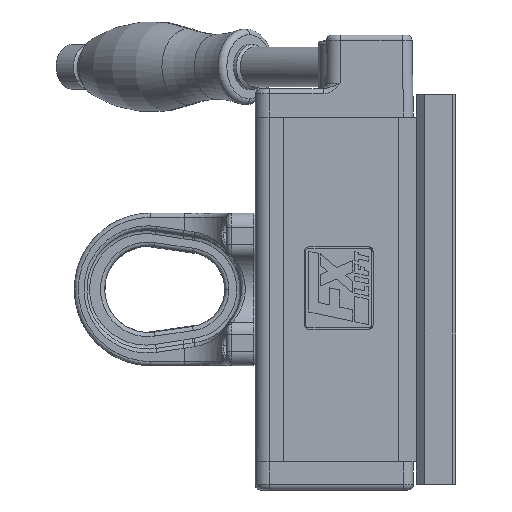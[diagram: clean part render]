
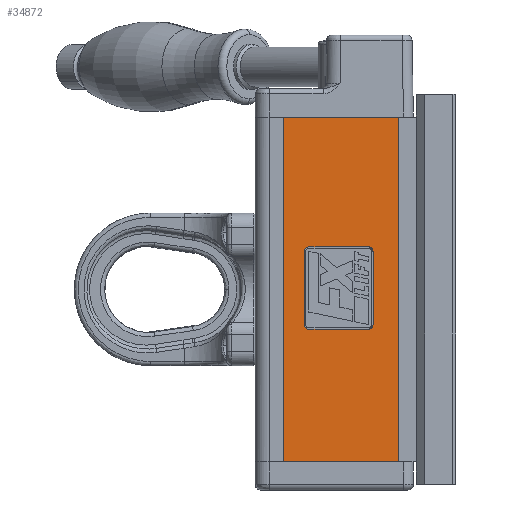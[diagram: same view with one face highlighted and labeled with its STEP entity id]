
A CAD part, front view. The second image highlights one B-rep face of the part: STEP entity #34872.
In plain terms, the highlighted planar face has unit normal (0, -1, 0).
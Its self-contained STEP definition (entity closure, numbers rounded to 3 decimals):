
#623 = CARTESIAN_POINT ( 'NONE',  ( 7.094, -30.5, -14.097 ) ) ;
#811 = CARTESIAN_POINT ( 'NONE',  ( -13.956, -30.5, -14.097 ) ) ;
#1294 = CARTESIAN_POINT ( 'NONE',  ( 7.094, -30.5, 15.049 ) ) ;
#1413 = CARTESIAN_POINT ( 'NONE',  ( 0., -30.5, 61. ) ) ;
#1446 = LINE ( 'NONE', #21803, #20398 ) ;
#1626 = LINE ( 'NONE', #22118, #28973 ) ;
#1720 = VECTOR ( 'NONE', #26220, 1000. ) ;
#1820 = VECTOR ( 'NONE', #45745, 1000. ) ;
#3066 = EDGE_CURVE ( 'NONE', #32357, #24352, #33013, .T. ) ;
#3856 = AXIS2_PLACEMENT_3D ( 'NONE', #1413, #33515, #12178 ) ;
#4067 = CARTESIAN_POINT ( 'NONE',  ( 8.713, -30.5, -13.369 ) ) ;
#4346 = CARTESIAN_POINT ( 'NONE',  ( -15.575, -30.5, -12.478 ) ) ;
#4521 = EDGE_CURVE ( 'NONE', #40160, #18992, #1446, .T. ) ;
#4547 = VERTEX_POINT ( 'NONE', #4346 ) ;
#4882 = CARTESIAN_POINT ( 'NONE',  ( 7.985, -30.5, 15.049 ) ) ;
#5013 = CARTESIAN_POINT ( 'NONE',  ( 18.5, -30.5, 61. ) ) ;
#6600 = LINE ( 'NONE', #10563, #43378 ) ;
#7092 = VERTEX_POINT ( 'NONE', #20134 ) ;
#7421 = CARTESIAN_POINT ( 'NONE',  ( -14.847, -30.5, 15.049 ) ) ;
#7683 = CARTESIAN_POINT ( 'NONE',  ( 8.713, -30.5, -12.478 ) ) ;
#7720 = CARTESIAN_POINT ( 'NONE',  ( -15.575, -30.5, 13.43 ) ) ;
#7760 = CARTESIAN_POINT ( 'NONE',  ( -15.575, -30.5, -13.369 ) ) ;
#7985 = FACE_BOUND ( 'NONE', #30685, .T. ) ;
#9114 = CARTESIAN_POINT ( 'NONE',  ( 8.713, -30.5, 13.43 ) ) ;
#9418 = CARTESIAN_POINT ( 'NONE',  ( 8.713, -30.5, 13.43 ) ) ;
#10448 = VERTEX_POINT ( 'NONE', #9418 ) ;
#10563 = CARTESIAN_POINT ( 'NONE',  ( -15.575, -30.5, 0. ) ) ;
#11505 = ORIENTED_EDGE ( 'NONE', *, *, #32590, .T. ) ;
#12178 = DIRECTION ( 'NONE',  ( 0., 0., -1. ) ) ;
#12942 = FACE_OUTER_BOUND ( 'NONE', #21248, .T. ) ;
#14066 = ORIENTED_EDGE ( 'NONE', *, *, #28301, .T. ) ;
#14278 = CARTESIAN_POINT ( 'NONE',  ( 8.713, -30.5, -12.478 ) ) ;
#14628 = ORIENTED_EDGE ( 'NONE', *, *, #18828, .T. ) ;
#14654 = ORIENTED_EDGE ( 'NONE', *, *, #37731, .T. ) ;
#14832 = VERTEX_POINT ( 'NONE', #16924 ) ;
#14943 = DIRECTION ( 'NONE',  ( -1., 0., 0. ) ) ;
#16924 = CARTESIAN_POINT ( 'NONE',  ( -23., -30.5, -61. ) ) ;
#17903 = CARTESIAN_POINT ( 'NONE',  ( -13.956, -30.5, 15.049 ) ) ;
#18156 = CARTESIAN_POINT ( 'NONE',  ( -14.847, -30.5, -14.097 ) ) ;
#18185 = LINE ( 'NONE', #34086, #34919 ) ;
#18238 = ORIENTED_EDGE ( 'NONE', *, *, #40748, .F. ) ;
#18269 = CARTESIAN_POINT ( 'NONE',  ( -15.575, -30.5, 14.32 ) ) ;
#18790 = CARTESIAN_POINT ( 'NONE',  ( 0., -30.5, 15.049 ) ) ;
#18828 = EDGE_CURVE ( 'NONE', #7092, #44595, #1626, .T. ) ;
#18992 = VERTEX_POINT ( 'NONE', #33462 ) ;
#20134 = CARTESIAN_POINT ( 'NONE',  ( 7.094, -30.5, -14.097 ) ) ;
#20398 = VECTOR ( 'NONE', #25388, 1000. ) ;
#21143 = CARTESIAN_POINT ( 'NONE',  ( 8.713, -30.5, 0. ) ) ;
#21248 = EDGE_LOOP ( 'NONE', ( #29126, #18238, #36755, #31519 ) ) ;
#21800 = LINE ( 'NONE', #5013, #1720 ) ;
#21803 = CARTESIAN_POINT ( 'NONE',  ( 0., -30.5, 61. ) ) ;
#21907 = CARTESIAN_POINT ( 'NONE',  ( -13.956, -30.5, -14.097 ) ) ;
#21984 = CARTESIAN_POINT ( 'NONE',  ( 7.985, -30.5, -14.097 ) ) ;
#22037 = EDGE_CURVE ( 'NONE', #24352, #31612, #34424, .T. ) ;
#22118 = CARTESIAN_POINT ( 'NONE',  ( 0., -30.5, -14.097 ) ) ;
#22697 = CARTESIAN_POINT ( 'NONE',  ( 7.094, -30.5, 15.049 ) ) ;
#23045 = EDGE_CURVE ( 'NONE', #40160, #14832, #18185, .T. ) ;
#23129 = CARTESIAN_POINT ( 'NONE',  ( 18.5, -30.5, -61. ) ) ;
#23330 = DIRECTION ( 'NONE',  ( 0., 0., -1. ) ) ;
#24352 = VERTEX_POINT ( 'NONE', #17903 ) ;
#24393 = CARTESIAN_POINT ( 'NONE',  ( 0., -30.5, -61. ) ) ;
#25388 = DIRECTION ( 'NONE',  ( 1., 0., 0. ) ) ;
#25828 = DIRECTION ( 'NONE',  ( 1., 0., 0. ) ) ;
#26220 = DIRECTION ( 'NONE',  ( 0., 0., -1. ) ) ;
#27201 = VERTEX_POINT ( 'NONE', #23129 ) ;
#28301 = EDGE_CURVE ( 'NONE', #10448, #46080, #42875, .T. ) ;
#28320 = DIRECTION ( 'NONE',  ( 0., 0., 1. ) ) ;
#28973 = VECTOR ( 'NONE', #14943, 1000. ) ;
#29126 = ORIENTED_EDGE ( 'NONE', *, *, #34558, .T. ) ;
#29162 = LINE ( 'NONE', #24393, #1820 ) ;
#29421 = EDGE_CURVE ( 'NONE', #4547, #32357, #6600, .T. ) ;
#30429 = CARTESIAN_POINT ( 'NONE',  ( 8.713, -30.5, 14.32 ) ) ;
#30685 = EDGE_LOOP ( 'NONE', ( #14654, #36282, #36051, #40304, #33394, #14066, #11505, #14628 ) ) ;
#31404 = B_SPLINE_CURVE_WITH_KNOTS ( 'NONE', 3,
 ( #21907, #18156, #7760, #32668 ),
 .UNSPECIFIED., .F., .F.,
 ( 4, 4 ),
 ( 0.778, 1. ),
 .UNSPECIFIED. ) ;
#31519 = ORIENTED_EDGE ( 'NONE', *, *, #23045, .T. ) ;
#31612 = VERTEX_POINT ( 'NONE', #22697 ) ;
#31672 = B_SPLINE_CURVE_WITH_KNOTS ( 'NONE', 3,
 ( #1294, #4882, #30429, #9114 ),
 .UNSPECIFIED., .F., .F.,
 ( 4, 4 ),
 ( 0.333, 0.444 ),
 .UNSPECIFIED. ) ;
#32179 = EDGE_CURVE ( 'NONE', #31612, #10448, #31672, .T. ) ;
#32357 = VERTEX_POINT ( 'NONE', #45504 ) ;
#32590 = EDGE_CURVE ( 'NONE', #46080, #7092, #41363, .T. ) ;
#32631 = CARTESIAN_POINT ( 'NONE',  ( -13.956, -30.5, 15.049 ) ) ;
#32668 = CARTESIAN_POINT ( 'NONE',  ( -15.575, -30.5, -12.478 ) ) ;
#33013 = B_SPLINE_CURVE_WITH_KNOTS ( 'NONE', 3,
 ( #7720, #18269, #7421, #32631 ),
 .UNSPECIFIED., .F., .F.,
 ( 4, 4 ),
 ( 0.111, 0.222 ),
 .UNSPECIFIED. ) ;
#33394 = ORIENTED_EDGE ( 'NONE', *, *, #32179, .T. ) ;
#33415 = VECTOR ( 'NONE', #39089, 1000. ) ;
#33462 = CARTESIAN_POINT ( 'NONE',  ( 18.5, -30.5, 61. ) ) ;
#33515 = DIRECTION ( 'NONE',  ( 0., 1., 0. ) ) ;
#34086 = CARTESIAN_POINT ( 'NONE',  ( -23., -30.5, 61. ) ) ;
#34424 = LINE ( 'NONE', #18790, #35560 ) ;
#34558 = EDGE_CURVE ( 'NONE', #14832, #27201, #29162, .T. ) ;
#34872 = ADVANCED_FACE ( 'NONE', ( #12942, #7985 ), #40516, .F. ) ;
#34919 = VECTOR ( 'NONE', #23330, 1000. ) ;
#35560 = VECTOR ( 'NONE', #25828, 1000. ) ;
#36051 = ORIENTED_EDGE ( 'NONE', *, *, #3066, .T. ) ;
#36282 = ORIENTED_EDGE ( 'NONE', *, *, #29421, .T. ) ;
#36755 = ORIENTED_EDGE ( 'NONE', *, *, #4521, .F. ) ;
#37731 = EDGE_CURVE ( 'NONE', #44595, #4547, #31404, .T. ) ;
#39089 = DIRECTION ( 'NONE',  ( 0., 0., -1. ) ) ;
#40160 = VERTEX_POINT ( 'NONE', #40864 ) ;
#40304 = ORIENTED_EDGE ( 'NONE', *, *, #22037, .T. ) ;
#40516 = PLANE ( 'NONE',  #3856 ) ;
#40748 = EDGE_CURVE ( 'NONE', #18992, #27201, #21800, .T. ) ;
#40864 = CARTESIAN_POINT ( 'NONE',  ( -23., -30.5, 61. ) ) ;
#41363 = B_SPLINE_CURVE_WITH_KNOTS ( 'NONE', 3,
 ( #7683, #4067, #21984, #623 ),
 .UNSPECIFIED., .F., .F.,
 ( 4, 4 ),
 ( 0.556, 0.667 ),
 .UNSPECIFIED. ) ;
#42875 = LINE ( 'NONE', #21143, #33415 ) ;
#43378 = VECTOR ( 'NONE', #28320, 1000. ) ;
#44595 = VERTEX_POINT ( 'NONE', #811 ) ;
#45504 = CARTESIAN_POINT ( 'NONE',  ( -15.575, -30.5, 13.43 ) ) ;
#45745 = DIRECTION ( 'NONE',  ( 1., 0., 0. ) ) ;
#46080 = VERTEX_POINT ( 'NONE', #14278 ) ;
